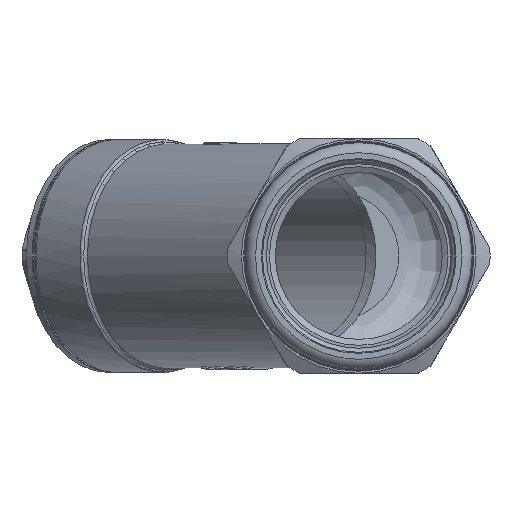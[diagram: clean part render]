
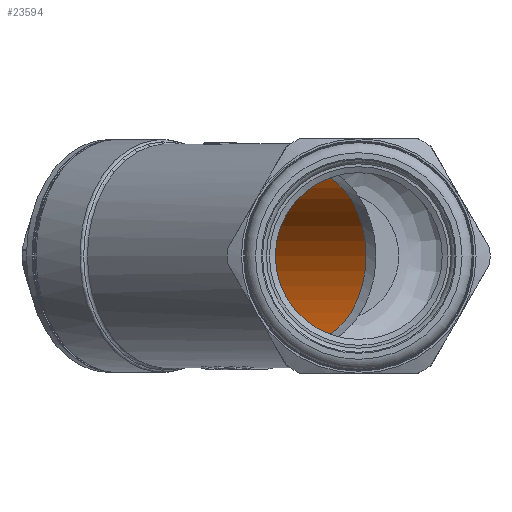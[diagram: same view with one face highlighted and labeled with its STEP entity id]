
A CAD part, left-side view. The second image highlights one B-rep face of the part: STEP entity #23594.
In plain terms, the highlighted cylindrical face has radius 25.2 mm (diameter 50.4 mm), a full revolution.
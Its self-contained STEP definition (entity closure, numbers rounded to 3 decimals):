
#20691=CARTESIAN_POINT('',(1.072,-2.566,0.0));
#20692=VERTEX_POINT('',#20691);
#20693=CARTESIAN_POINT('',(-16.747,15.253,0.0));
#20694=DIRECTION('',(0.707,0.707,0.0));
#20695=DIRECTION('',(0.707,-0.707,0.0));
#20696=AXIS2_PLACEMENT_3D('',#20693,#20694,#20695);
#20697=CIRCLE('',#20696,25.2);
#20698=EDGE_CURVE('',#20692,#20692,#20697,.T.);
#23571=CARTESIAN_POINT('',(53.751,50.113,0.0));
#23572=VERTEX_POINT('',#23571);
#23573=CARTESIAN_POINT('',(35.932,67.932,0.0));
#23574=DIRECTION('',(-0.707,-0.707,0.0));
#23575=DIRECTION('',(0.707,-0.707,0.0));
#23576=AXIS2_PLACEMENT_3D('',#23573,#23574,#23575);
#23577=CIRCLE('',#23576,25.2);
#23578=EDGE_CURVE('',#23572,#23572,#23577,.T.);
#23583=CARTESIAN_POINT('',(-16.747,15.253,0.0));
#23584=DIRECTION('',(0.707,0.707,0.0));
#23585=DIRECTION('',(0.707,-0.707,0.0));
#23586=AXIS2_PLACEMENT_3D('',#23583,#23584,#23585);
#23587=CYLINDRICAL_SURFACE('',#23586,25.2);
#23588=ORIENTED_EDGE('',*,*,#20698,.F.);
#23589=EDGE_LOOP('',(#23588));
#23590=FACE_OUTER_BOUND('',#23589,.T.);
#23591=ORIENTED_EDGE('',*,*,#23578,.F.);
#23592=EDGE_LOOP('',(#23591));
#23593=FACE_BOUND('',#23592,.T.);
#23594=ADVANCED_FACE('',(#23590,#23593),#23587,.F.);
